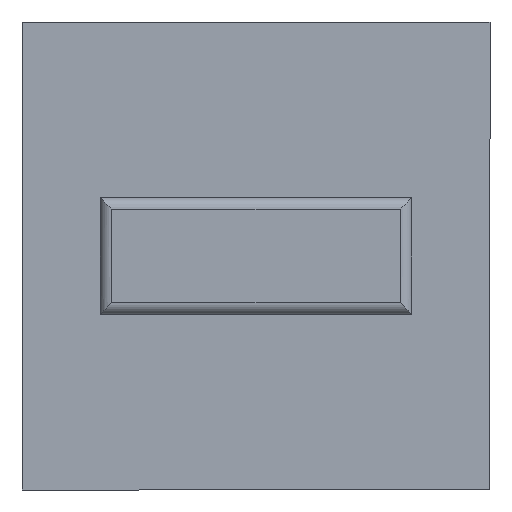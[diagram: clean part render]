
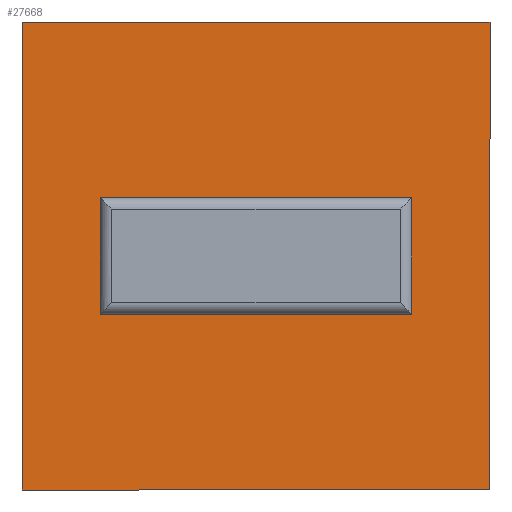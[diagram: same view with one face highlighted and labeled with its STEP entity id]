
A CAD part, front view. The second image highlights one B-rep face of the part: STEP entity #27668.
In plain terms, the highlighted planar face has unit normal (0, -1, 0) as drawn and (0, 0, 1) by its records, which use the part's own axes.
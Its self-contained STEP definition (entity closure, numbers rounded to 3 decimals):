
#115 = DIRECTION ( 'NONE',  ( 1., 0., 0. ) ) ;
#332 = CARTESIAN_POINT ( 'NONE',  ( 14.5, 0., 7. ) ) ;
#570 = EDGE_CURVE ( 'NONE', #11823, #3106, #2654, .T. ) ;
#709 = ORIENTED_EDGE ( 'NONE', *, *, #25318, .F. ) ;
#1072 = DIRECTION ( 'NONE',  ( 1., 0., 0. ) ) ;
#1434 = DIRECTION ( 'NONE',  ( 1., 0., 0. ) ) ;
#1870 = ORIENTED_EDGE ( 'NONE', *, *, #33654, .T. ) ;
#1907 = CARTESIAN_POINT ( 'NONE',  ( -27.5, 27.5, 7. ) ) ;
#2061 = AXIS2_PLACEMENT_3D ( 'NONE', #332, #23726, #2579 ) ;
#2262 = VECTOR ( 'NONE', #26526, 1000. ) ;
#2579 = DIRECTION ( 'NONE',  ( 1., 0., 0. ) ) ;
#2654 = CIRCLE ( 'NONE', #7074, 6.4 ) ;
#2670 = AXIS2_PLACEMENT_3D ( 'NONE', #1907, #6891, #33411 ) ;
#3106 = VERTEX_POINT ( 'NONE', #15585 ) ;
#3244 = VERTEX_POINT ( 'NONE', #26425 ) ;
#4072 = VECTOR ( 'NONE', #22416, 1000. ) ;
#4250 = EDGE_CURVE ( 'NONE', #10549, #8692, #20936, .T. ) ;
#4706 = DIRECTION ( 'NONE',  ( -1., 0., 0. ) ) ;
#5514 = AXIS2_PLACEMENT_3D ( 'NONE', #33877, #21425, #115 ) ;
#5658 = ORIENTED_EDGE ( 'NONE', *, *, #8616, .T. ) ;
#5720 = VERTEX_POINT ( 'NONE', #11114 ) ;
#6482 = CARTESIAN_POINT ( 'NONE',  ( 11.95, 0., 7. ) ) ;
#6891 = DIRECTION ( 'NONE',  ( 0., 0., 1. ) ) ;
#6895 = ORIENTED_EDGE ( 'NONE', *, *, #23367, .F. ) ;
#6953 = CARTESIAN_POINT ( 'NONE',  ( -17.05, 0., 7. ) ) ;
#7074 = AXIS2_PLACEMENT_3D ( 'NONE', #14708, #14543, #14180 ) ;
#7244 = FACE_OUTER_BOUND ( 'NONE', #30144, .T. ) ;
#7679 = ORIENTED_EDGE ( 'NONE', *, *, #570, .T. ) ;
#7874 = VECTOR ( 'NONE', #17185, 1000. ) ;
#8173 = CARTESIAN_POINT ( 'NONE',  ( 14.5, 0., 7. ) ) ;
#8616 = EDGE_CURVE ( 'NONE', #3244, #32009, #30990, .T. ) ;
#8653 = VERTEX_POINT ( 'NONE', #17089 ) ;
#8692 = VERTEX_POINT ( 'NONE', #6953 ) ;
#10549 = VERTEX_POINT ( 'NONE', #23856 ) ;
#11114 = CARTESIAN_POINT ( 'NONE',  ( 30., -30., 7. ) ) ;
#11773 = VECTOR ( 'NONE', #4706, 1000. ) ;
#11823 = VERTEX_POINT ( 'NONE', #15449 ) ;
#13089 = CARTESIAN_POINT ( 'NONE',  ( 30., 30., 7. ) ) ;
#13338 = EDGE_CURVE ( 'NONE', #32009, #3244, #18520, .T. ) ;
#13613 = VERTEX_POINT ( 'NONE', #20124 ) ;
#14180 = DIRECTION ( 'NONE',  ( 1., 0., 0. ) ) ;
#14444 = AXIS2_PLACEMENT_3D ( 'NONE', #16723, #18973, #1072 ) ;
#14543 = DIRECTION ( 'NONE',  ( 0., 0., -1. ) ) ;
#14708 = CARTESIAN_POINT ( 'NONE',  ( 2.5, 0., 7. ) ) ;
#15418 = CIRCLE ( 'NONE', #5514, 6.4 ) ;
#15449 = CARTESIAN_POINT ( 'NONE',  ( 8.9, 0., 7. ) ) ;
#15506 = CARTESIAN_POINT ( 'NONE',  ( -30., -30., 7. ) ) ;
#15585 = CARTESIAN_POINT ( 'NONE',  ( -3.9, 0., 7. ) ) ;
#15746 = ORIENTED_EDGE ( 'NONE', *, *, #4250, .T. ) ;
#15826 = LINE ( 'NONE', #15506, #11773 ) ;
#16013 = ORIENTED_EDGE ( 'NONE', *, *, #13338, .T. ) ;
#16615 = VERTEX_POINT ( 'NONE', #13089 ) ;
#16723 = CARTESIAN_POINT ( 'NONE',  ( -14.5, 0., 7. ) ) ;
#17089 = CARTESIAN_POINT ( 'NONE',  ( -30., 30., 7. ) ) ;
#17185 = DIRECTION ( 'NONE',  ( 0., -1., 0. ) ) ;
#17884 = FACE_BOUND ( 'NONE', #28095, .T. ) ;
#18520 = CIRCLE ( 'NONE', #2061, 2.55 ) ;
#18653 = DIRECTION ( 'NONE',  ( 0., 0., -1. ) ) ;
#18733 = EDGE_CURVE ( 'NONE', #13613, #8653, #27586, .T. ) ;
#18784 = LINE ( 'NONE', #32207, #7874 ) ;
#18945 = LINE ( 'NONE', #31535, #2262 ) ;
#18973 = DIRECTION ( 'NONE',  ( 0., 0., -1. ) ) ;
#19393 = CIRCLE ( 'NONE', #14444, 2.55 ) ;
#19963 = FACE_BOUND ( 'NONE', #23047, .T. ) ;
#20124 = CARTESIAN_POINT ( 'NONE',  ( -30., -30., 7. ) ) ;
#20456 = ORIENTED_EDGE ( 'NONE', *, *, #29149, .T. ) ;
#20936 = CIRCLE ( 'NONE', #25324, 2.55 ) ;
#21425 = DIRECTION ( 'NONE',  ( 0., 0., -1. ) ) ;
#22000 = DIRECTION ( 'NONE',  ( 1., 0., 0. ) ) ;
#22110 = ORIENTED_EDGE ( 'NONE', *, *, #33916, .F. ) ;
#22416 = DIRECTION ( 'NONE',  ( 0., 1., 0. ) ) ;
#22750 = ORIENTED_EDGE ( 'NONE', *, *, #18733, .F. ) ;
#23047 = EDGE_LOOP ( 'NONE', ( #5658, #16013 ) ) ;
#23367 = EDGE_CURVE ( 'NONE', #8653, #16615, #18945, .T. ) ;
#23726 = DIRECTION ( 'NONE',  ( 0., 0., -1. ) ) ;
#23856 = CARTESIAN_POINT ( 'NONE',  ( -11.95, 0., 7. ) ) ;
#25099 = CARTESIAN_POINT ( 'NONE',  ( -14.5, 0., 7. ) ) ;
#25318 = EDGE_CURVE ( 'NONE', #16615, #5720, #18784, .T. ) ;
#25324 = AXIS2_PLACEMENT_3D ( 'NONE', #25099, #27684, #22000 ) ;
#26425 = CARTESIAN_POINT ( 'NONE',  ( 17.05, 0., 7. ) ) ;
#26526 = DIRECTION ( 'NONE',  ( 1., 0., 0. ) ) ;
#27586 = LINE ( 'NONE', #33463, #4072 ) ;
#27668 = ADVANCED_FACE ( 'NONE', ( #30985, #17884, #19963, #7244 ), #30466, .T. ) ;
#27684 = DIRECTION ( 'NONE',  ( 0., 0., -1. ) ) ;
#28095 = EDGE_LOOP ( 'NONE', ( #7679, #20456 ) ) ;
#29149 = EDGE_CURVE ( 'NONE', #3106, #11823, #15418, .T. ) ;
#30144 = EDGE_LOOP ( 'NONE', ( #709, #6895, #22750, #22110 ) ) ;
#30466 = PLANE ( 'NONE',  #2670 ) ;
#30985 = FACE_BOUND ( 'NONE', #31979, .T. ) ;
#30990 = CIRCLE ( 'NONE', #32070, 2.55 ) ;
#31535 = CARTESIAN_POINT ( 'NONE',  ( 30., 30., 7. ) ) ;
#31979 = EDGE_LOOP ( 'NONE', ( #15746, #1870 ) ) ;
#32009 = VERTEX_POINT ( 'NONE', #6482 ) ;
#32070 = AXIS2_PLACEMENT_3D ( 'NONE', #8173, #18653, #1434 ) ;
#32207 = CARTESIAN_POINT ( 'NONE',  ( 30., -27.5, 7. ) ) ;
#33411 = DIRECTION ( 'NONE',  ( 1., 0., 0. ) ) ;
#33463 = CARTESIAN_POINT ( 'NONE',  ( -30., 27.5, 7. ) ) ;
#33654 = EDGE_CURVE ( 'NONE', #8692, #10549, #19393, .T. ) ;
#33877 = CARTESIAN_POINT ( 'NONE',  ( 2.5, 0., 7. ) ) ;
#33916 = EDGE_CURVE ( 'NONE', #5720, #13613, #15826, .T. ) ;
